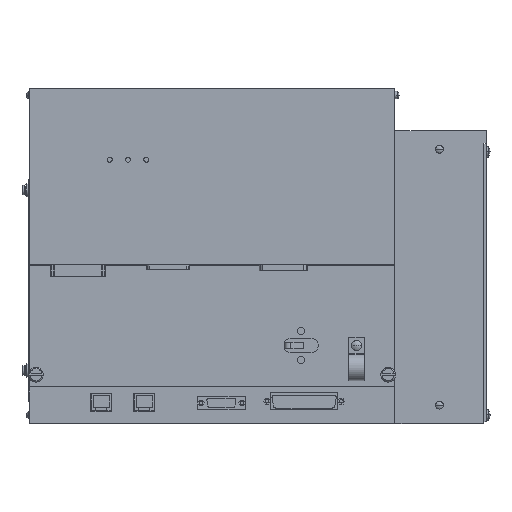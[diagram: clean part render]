
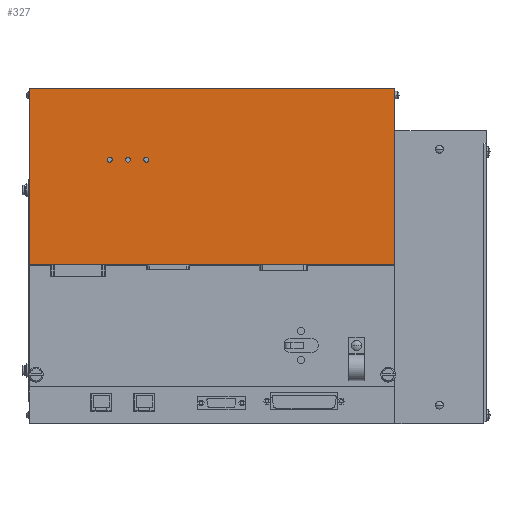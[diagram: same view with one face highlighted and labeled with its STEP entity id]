
A CAD part, top view. The second image highlights one B-rep face of the part: STEP entity #327.
In plain terms, the highlighted planar face has unit normal (0, 0, 1).
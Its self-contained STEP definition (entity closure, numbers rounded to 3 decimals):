
#327 = ADVANCED_FACE( '', ( #1076, #1077, #1078, #1079 ), #1080, .T. );
#1076 = FACE_OUTER_BOUND( '', #2182, .T. );
#1077 = FACE_BOUND( '', #2183, .T. );
#1078 = FACE_BOUND( '', #2184, .T. );
#1079 = FACE_BOUND( '', #2185, .T. );
#1080 = PLANE( '', #2186 );
#2182 = EDGE_LOOP( '', ( #4320, #4321, #4322, #4323 ) );
#2183 = EDGE_LOOP( '', ( #4324, #4325 ) );
#2184 = EDGE_LOOP( '', ( #4326, #4327 ) );
#2185 = EDGE_LOOP( '', ( #4328, #4329 ) );
#2186 = AXIS2_PLACEMENT_3D( '', #4330, #4331, #4332 );
#4320 = ORIENTED_EDGE( '', *, *, #7153, .F. );
#4321 = ORIENTED_EDGE( '', *, *, #7182, .T. );
#4322 = ORIENTED_EDGE( '', *, *, #7287, .T. );
#4323 = ORIENTED_EDGE( '', *, *, #7275, .F. );
#4324 = ORIENTED_EDGE( '', *, *, #7178, .F. );
#4325 = ORIENTED_EDGE( '', *, *, #6825, .F. );
#4326 = ORIENTED_EDGE( '', *, *, #7176, .F. );
#4327 = ORIENTED_EDGE( '', *, *, #6829, .F. );
#4328 = ORIENTED_EDGE( '', *, *, #7174, .F. );
#4329 = ORIENTED_EDGE( '', *, *, #6833, .F. );
#4330 = CARTESIAN_POINT( '', ( -1., 131., 40. ) );
#4331 = DIRECTION( '', ( 0., 0., 1. ) );
#4332 = DIRECTION( '', ( -1., 0., 0. ) );
#6825 = EDGE_CURVE( '', #8089, #8085, #8091, .T. );
#6829 = EDGE_CURVE( '', #8097, #8093, #8099, .T. );
#6833 = EDGE_CURVE( '', #8105, #8101, #8107, .T. );
#7153 = EDGE_CURVE( '', #8646, #8648, #8649, .T. );
#7174 = EDGE_CURVE( '', #8101, #8105, #8675, .T. );
#7176 = EDGE_CURVE( '', #8093, #8097, #8677, .T. );
#7178 = EDGE_CURVE( '', #8085, #8089, #8679, .T. );
#7182 = EDGE_CURVE( '', #8646, #8683, #8685, .T. );
#7275 = EDGE_CURVE( '', #8648, #8850, #8851, .T. );
#7287 = EDGE_CURVE( '', #8683, #8850, #8867, .T. );
#8085 = VERTEX_POINT( '', #10112 );
#8089 = VERTEX_POINT( '', #10117 );
#8091 = CIRCLE( '', #10120, 2. );
#8093 = VERTEX_POINT( '', #10122 );
#8097 = VERTEX_POINT( '', #10127 );
#8099 = CIRCLE( '', #10130, 2. );
#8101 = VERTEX_POINT( '', #10132 );
#8105 = VERTEX_POINT( '', #10137 );
#8107 = CIRCLE( '', #10140, 2. );
#8646 = VERTEX_POINT( '', #10867 );
#8648 = VERTEX_POINT( '', #10870 );
#8649 = LINE( '', #10871, #10872 );
#8675 = CIRCLE( '', #10904, 2. );
#8677 = CIRCLE( '', #10906, 2. );
#8679 = CIRCLE( '', #10908, 2. );
#8683 = VERTEX_POINT( '', #10913 );
#8685 = LINE( '', #10916, #10917 );
#8850 = VERTEX_POINT( '', #11158 );
#8851 = LINE( '', #11159, #11160 );
#8867 = LINE( '', #11185, #11186 );
#10112 = CARTESIAN_POINT( '', ( 97., 216.3, 40. ) );
#10117 = CARTESIAN_POINT( '', ( 93., 216.3, 40. ) );
#10120 = AXIS2_PLACEMENT_3D( '', #12943, #12944, #12945 );
#10122 = CARTESIAN_POINT( '', ( 82., 216.3, 40. ) );
#10127 = CARTESIAN_POINT( '', ( 78., 216.3, 40. ) );
#10130 = AXIS2_PLACEMENT_3D( '', #12951, #12952, #12953 );
#10132 = CARTESIAN_POINT( '', ( 67., 216.3, 40. ) );
#10137 = CARTESIAN_POINT( '', ( 63., 216.3, 40. ) );
#10140 = AXIS2_PLACEMENT_3D( '', #12959, #12960, #12961 );
#10867 = CARTESIAN_POINT( '', ( -1., 130., 40. ) );
#10870 = CARTESIAN_POINT( '', ( -1., 275., 40. ) );
#10871 = CARTESIAN_POINT( '', ( -1., 275., 40. ) );
#10872 = VECTOR( '', #13661, 1. );
#10904 = AXIS2_PLACEMENT_3D( '', #13710, #13711, #13712 );
#10906 = AXIS2_PLACEMENT_3D( '', #13716, #13717, #13718 );
#10908 = AXIS2_PLACEMENT_3D( '', #13722, #13723, #13724 );
#10913 = CARTESIAN_POINT( '', ( 299., 130., 40. ) );
#10916 = CARTESIAN_POINT( '', ( -1., 130., 40. ) );
#10917 = VECTOR( '', #13730, 1. );
#11158 = CARTESIAN_POINT( '', ( 299., 275., 40. ) );
#11159 = CARTESIAN_POINT( '', ( 299., 275., 40. ) );
#11160 = VECTOR( '', #13855, 1. );
#11185 = CARTESIAN_POINT( '', ( 299., 275., 40. ) );
#11186 = VECTOR( '', #13871, 1. );
#12943 = CARTESIAN_POINT( '', ( 95., 216.3, 40. ) );
#12944 = DIRECTION( '', ( 0., 0., 1. ) );
#12945 = DIRECTION( '', ( 1., 0., 0. ) );
#12951 = CARTESIAN_POINT( '', ( 80., 216.3, 40. ) );
#12952 = DIRECTION( '', ( 0., 0., 1. ) );
#12953 = DIRECTION( '', ( 1., 0., 0. ) );
#12959 = CARTESIAN_POINT( '', ( 65., 216.3, 40. ) );
#12960 = DIRECTION( '', ( 0., 0., 1. ) );
#12961 = DIRECTION( '', ( 1., 0., 0. ) );
#13661 = DIRECTION( '', ( 0., 1., 0. ) );
#13710 = CARTESIAN_POINT( '', ( 65., 216.3, 40. ) );
#13711 = DIRECTION( '', ( 0., 0., 1. ) );
#13712 = DIRECTION( '', ( 1., 0., 0. ) );
#13716 = CARTESIAN_POINT( '', ( 80., 216.3, 40. ) );
#13717 = DIRECTION( '', ( 0., 0., 1. ) );
#13718 = DIRECTION( '', ( 1., 0., 0. ) );
#13722 = CARTESIAN_POINT( '', ( 95., 216.3, 40. ) );
#13723 = DIRECTION( '', ( 0., 0., 1. ) );
#13724 = DIRECTION( '', ( 1., 0., 0. ) );
#13730 = DIRECTION( '', ( 1., 0., 0. ) );
#13855 = DIRECTION( '', ( 1., 0., 0. ) );
#13871 = DIRECTION( '', ( 0., 1., 0. ) );
